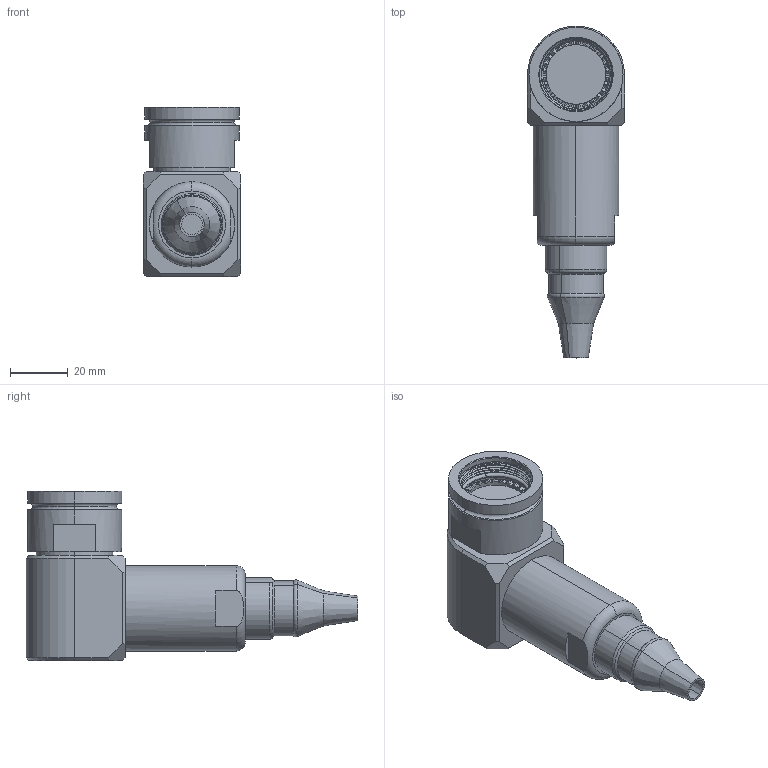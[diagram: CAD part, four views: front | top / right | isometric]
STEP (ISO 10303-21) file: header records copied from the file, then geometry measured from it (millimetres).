
FILE_DESCRIPTION (( 'STEP AP214' ), '1' );
FILE_NAME ('Q38EBSHELL-90X-17-XXXX-HX.STEP', '2025-09-19T15:37:41', ( '' ), ( '' ), 'SwSTEP 2.0', 'SolidWorks 2024', '' );
FILE_SCHEMA (( 'AUTOMOTIVE_DESIGN' ));
Length unit declared in the file: millimetre
Products named in the file (1): Q38EBSHELL-90X-17-XXXX-HX
Bounding box: 33.6 x 114.9 x 58.57 mm (x, y, z)
Volume: 84462.4 mm3; surface area: 18298.5 mm2
Topology: 2 solids, 4 shells, 250 faces, 647 edges, 420 vertices
Faces by surface type: plane 158, cylinder 45, cone 24, torus 14, bspline 9
Entity records: 10265 total; most frequent: CARTESIAN_POINT 4386, ORIENTED_EDGE 1294, DIRECTION 1212, EDGE_CURVE 647, AXIS2_PLACEMENT_3D 486, VERTEX_POINT 420, EDGE_LOOP 267, FACE_OUTER_BOUND 250
